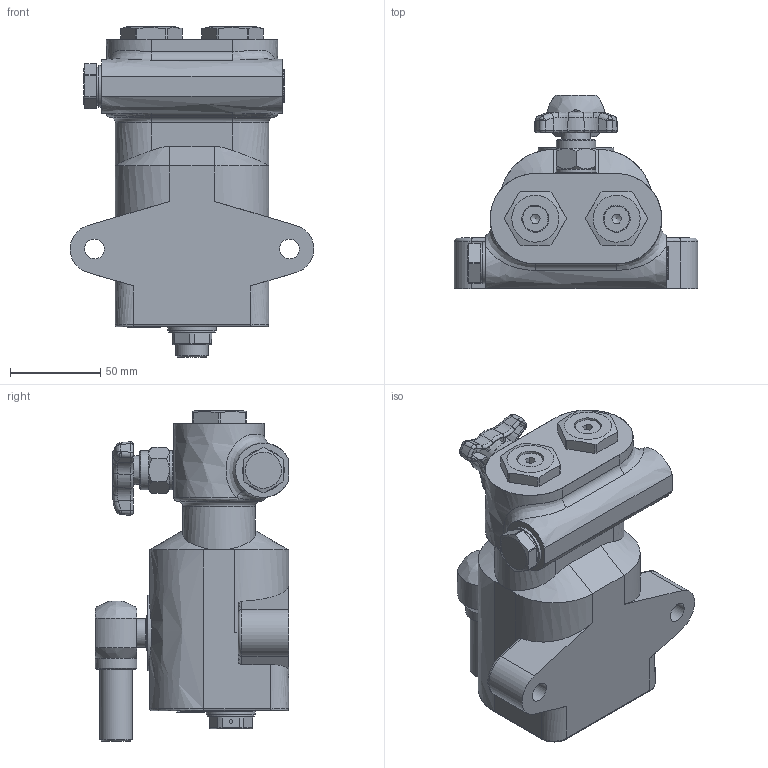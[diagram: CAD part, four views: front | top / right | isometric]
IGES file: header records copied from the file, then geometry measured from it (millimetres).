
Global section: file name: No Iges File Name specified; native system: Autodesk Inventor 2013; preprocessor: AutoDesk Inventor Iges Exporter R2013; author: christian.scardovi; date: 20240402.114415; units: millimetre
Bounding box: 134.96 x 107 x 183.1 mm (x, y, z)
Volume: 643567.3 mm3; surface area: 136055.9 mm2
Topology: 2 solids, 2 shells, 2352 faces, 6359 edges, 4111 vertices
Faces by surface type: bspline 2352
